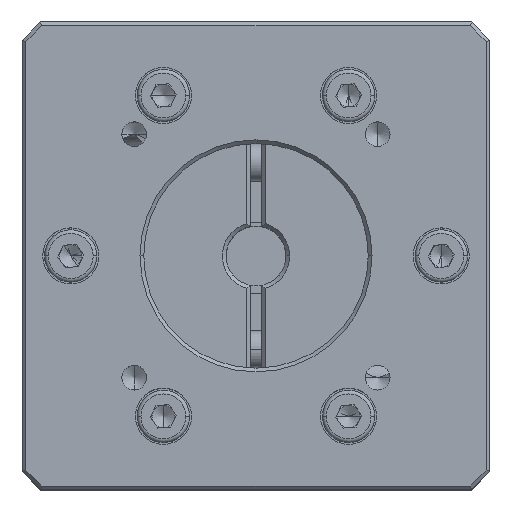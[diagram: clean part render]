
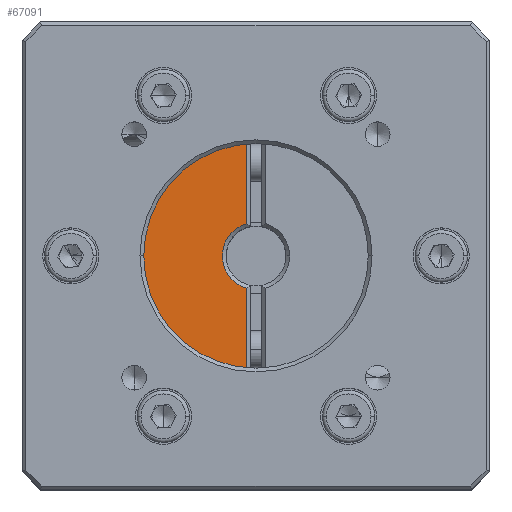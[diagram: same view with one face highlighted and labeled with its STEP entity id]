
A CAD part, top view. The second image highlights one B-rep face of the part: STEP entity #67091.
In plain terms, the highlighted planar face has unit normal (0, 0, 1).
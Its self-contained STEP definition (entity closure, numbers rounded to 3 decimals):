
#10901 = AXIS2_PLACEMENT_3D ( 'NONE', #64780, #74319, #56743 ) ;
#12484 = CARTESIAN_POINT ( 'NONE',  ( -26.452, 16.908, 9.62 ) ) ;
#12554 = FACE_OUTER_BOUND ( 'NONE', #24737, .T. ) ;
#14413 = VERTEX_POINT ( 'NONE', #20840 ) ;
#14847 = DIRECTION ( 'NONE',  ( 0., 1., 0. ) ) ;
#19669 = AXIS2_PLACEMENT_3D ( 'NONE', #112737, #60231, #51377 ) ;
#19871 = CARTESIAN_POINT ( 'NONE',  ( -26.452, 31.771, 9.62 ) ) ;
#20840 = CARTESIAN_POINT ( 'NONE',  ( -42.202, 36.094, 9.62 ) ) ;
#20958 = CARTESIAN_POINT ( 'NONE',  ( -26.452, 53.048, 9.62 ) ) ;
#24020 = CARTESIAN_POINT ( 'NONE',  ( -26.452, 16.908, 9.62 ) ) ;
#24737 = EDGE_LOOP ( 'NONE', ( #79336, #102034, #47382, #71395, #52121 ) ) ;
#25352 = LINE ( 'NONE', #12484, #26693 ) ;
#26693 = VECTOR ( 'NONE', #72361, 1000. ) ;
#27152 = AXIS2_PLACEMENT_3D ( 'NONE', #58805, #67591, #77513 ) ;
#31151 = EDGE_CURVE ( 'NONE', #85550, #98025, #25352, .T. ) ;
#39973 = CIRCLE ( 'NONE', #27152, 4.5 ) ;
#40290 = CIRCLE ( 'NONE', #77973, 17. ) ;
#41297 = VERTEX_POINT ( 'NONE', #96915 ) ;
#47382 = ORIENTED_EDGE ( 'NONE', *, *, #54054, .F. ) ;
#51377 = DIRECTION ( 'NONE',  ( -1., 0., 0. ) ) ;
#52121 = ORIENTED_EDGE ( 'NONE', *, *, #109339, .F. ) ;
#54054 = EDGE_CURVE ( 'NONE', #41297, #98025, #39973, .T. ) ;
#56743 = DIRECTION ( 'NONE',  ( -1., 0., 0. ) ) ;
#58610 = LINE ( 'NONE', #24020, #86029 ) ;
#58805 = CARTESIAN_POINT ( 'NONE',  ( -25.202, 36.094, 9.62 ) ) ;
#60231 = DIRECTION ( 'NONE',  ( 0., 0., -1. ) ) ;
#60952 = EDGE_CURVE ( 'NONE', #41297, #80464, #58610, .T. ) ;
#64780 = CARTESIAN_POINT ( 'NONE',  ( -25.202, 53.594, 9.62 ) ) ;
#67091 = ADVANCED_FACE ( 'NONE', ( #12554 ), #83147, .F. ) ;
#67591 = DIRECTION ( 'NONE',  ( 0., 0., 1. ) ) ;
#71316 = CARTESIAN_POINT ( 'NONE',  ( -25.202, 36.094, 9.62 ) ) ;
#71395 = ORIENTED_EDGE ( 'NONE', *, *, #60952, .T. ) ;
#72361 = DIRECTION ( 'NONE',  ( 0., 1., 0. ) ) ;
#74319 = DIRECTION ( 'NONE',  ( 0., 0., -1. ) ) ;
#77513 = DIRECTION ( 'NONE',  ( 0., 1., 0. ) ) ;
#77973 = AXIS2_PLACEMENT_3D ( 'NONE', #71316, #80097, #97709 ) ;
#79336 = ORIENTED_EDGE ( 'NONE', *, *, #92762, .F. ) ;
#80097 = DIRECTION ( 'NONE',  ( 0., 0., -1. ) ) ;
#80464 = VERTEX_POINT ( 'NONE', #20958 ) ;
#83147 = PLANE ( 'NONE',  #10901 ) ;
#85550 = VERTEX_POINT ( 'NONE', #112988 ) ;
#86029 = VECTOR ( 'NONE', #14847, 1000. ) ;
#92762 = EDGE_CURVE ( 'NONE', #85550, #14413, #105108, .T. ) ;
#96915 = CARTESIAN_POINT ( 'NONE',  ( -26.452, 40.417, 9.62 ) ) ;
#97709 = DIRECTION ( 'NONE',  ( -1., 0., 0. ) ) ;
#98025 = VERTEX_POINT ( 'NONE', #19871 ) ;
#102034 = ORIENTED_EDGE ( 'NONE', *, *, #31151, .T. ) ;
#105108 = CIRCLE ( 'NONE', #19669, 17. ) ;
#109339 = EDGE_CURVE ( 'NONE', #14413, #80464, #40290, .T. ) ;
#112737 = CARTESIAN_POINT ( 'NONE',  ( -25.202, 36.094, 9.62 ) ) ;
#112988 = CARTESIAN_POINT ( 'NONE',  ( -26.452, 19.14, 9.62 ) ) ;
